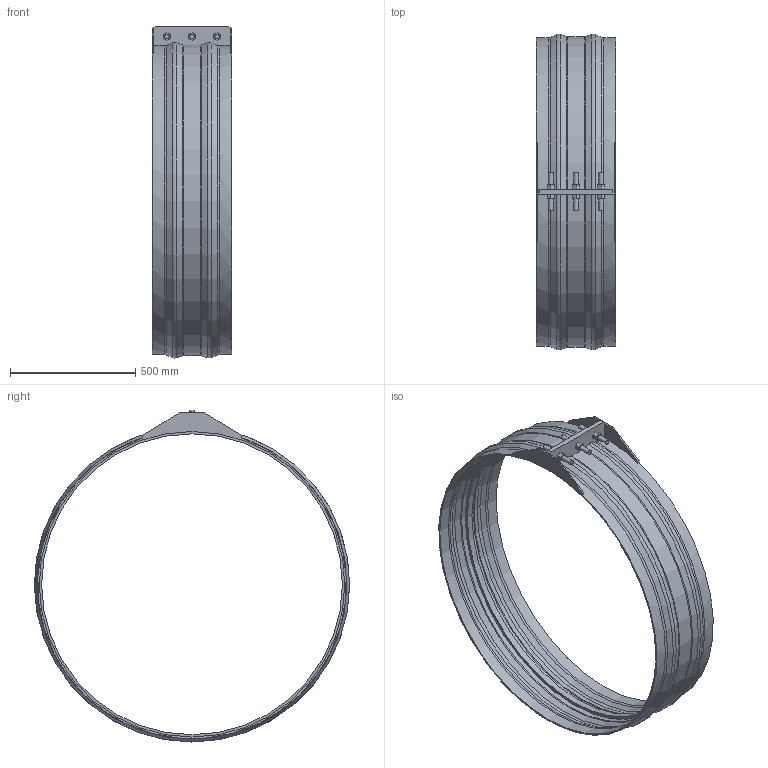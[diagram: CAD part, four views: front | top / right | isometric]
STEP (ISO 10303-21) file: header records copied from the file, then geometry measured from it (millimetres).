
FILE_DESCRIPTION(/* description */ ('VIC RESTRAINED COUPLING STYLE 233 (FLEX) (BRD)','CAx-IF Rec.Pracs.---Representation and Presentation of Product Manufacturing Information (PMI)---4.0---2014-10-13'),/* implementation_level */ '2;1');
FILE_NAME(/* name */ 'C:\Users\Vjadhav\Desktop\CAD for Inventor\Test for STEP\Vivek\Adsk_Inventor_Bolted Sleeve_iParts\STEP\Victaulic_VBSP_Coupling Flexible Restrained_Style 233 (BRD)\Victaulic_VBSP_Coupling Flexible Restrained_Style 233 (BRD)_100psi_48 (1200).stp',/* time_stamp */ '2020-09-24T12:30:01+05:00',/* author */ ('Vjadhav'),/* organization */ ('Victaulic'),/* preprocessor_version */ 'ST-DEVELOPER v17.2',/* originating_system */ 'Autodesk Inventor 2019',/* authorisation */ '');
FILE_SCHEMA (('AP242_MANAGED_MODEL_BASED_3D_ENGINEERING_MIM_LF { 1 0 10303 442 1 1 4 }'));
Length unit declared in the file: inch
Products named in the file (1): Style_233_Type_2_100psi-48.0
Bounding box: 317.5 x 1258.55 x 1324.62 mm (x, y, z)
Volume: 10032206 mm3; surface area: 2810160.2 mm2
Topology: 1 solids, 1 shells, 115 faces, 309 edges, 210 vertices
Faces by surface type: plane 73, cylinder 22, torus 12, cone 8
Full cylindrical faces by diameter (mm): 19.05 x6, 1200.15 x1, 1219.2 x2, 1225.55 x2
Entity records: 3978 total; most frequent: CARTESIAN_POINT 748, DIRECTION 653, ORIENTED_EDGE 618, EDGE_CURVE 309, AXIS2_PLACEMENT_3D 227, VERTEX_POINT 210, LINE 199, VECTOR 199
